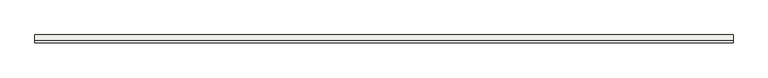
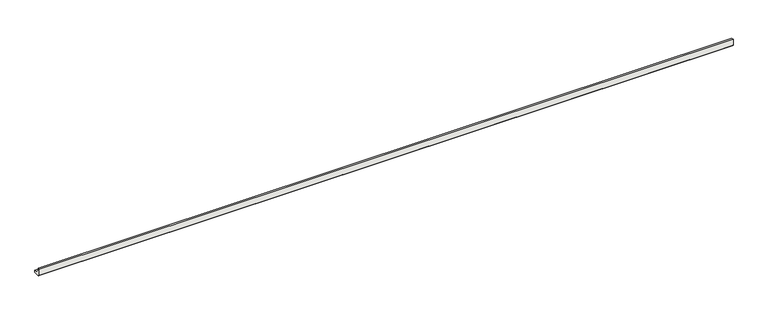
"""IFC4 building model written with IfcOpenShell, lengths in millimetres: slab geometry, ROSA GRES_188 : Pieza 188_Tresor_Java_Anti-Slip."""

from ifc_helpers import new_model, si_unit, point, frame, frame_2d, origin, place, context, project, spatial, polyline, circle_curve, trimmed, segment, composite_curve, outline, extrude, source, transform, mapped, element, save


def slab_aa2dd5a7(model_context):
    return source(origin(), model_context, "Body", "SweptSolid", [
        extrude(outline(composite_curve([segment(polyline([(0.0, 8.7114978), (0.0, 40.0), (9.9734114, 40.0)]), True, "CONTINUOUS"), segment(trimmed(circle_curve(frame_2d((39.9955547, 39.9955547)), 30.0221435), [point((9.9734114, 40.0))], [point((40.0, 9.9734114))], True, "CARTESIAN"), True, "CONTINUOUS"), segment(polyline([(40.0, 9.9734114), (40.0, 0.0), (8.7114978, 0.0), (0.0, 8.7114978)]), True, "CONTINUOUS")], self_intersect=False)), frame((0.0, 0.0, 0.0), z_axis=(1.0, 0.0, 0.0), x_axis=(0.0, 1.0, 0.0)), (0.0, 0.0, 1.0), 3494.9734114),
    ])


if __name__ == "__main__":
    model = new_model("IFC4")
    model_context = context("Model", 3, world=origin())
    ifc_project = project(units=[si_unit("LENGTHUNIT", "METRE", prefix="MILLI")], contexts=[model_context])
    site = spatial("IfcSite", under=ifc_project)
    building = spatial("IfcBuilding", under=site)
    placement = place(None, origin())
    slab_shape = slab_aa2dd5a7(model_context)
    element("IfcSlab", 1, ObjectType="ROSA GRES_188 : Pieza 188_Tresor_Java_Anti-Slip", at=placement, inside=building, context=model_context, shape_type="MappedRepresentation", body=[
        mapped(slab_shape, transform((0.0, 0.0, 0.0), x_axis=(1.0, 0.0, 0.0), y_axis=(0.0, 1.0, 0.0), z_axis=(0.0, 0.0, 1.0))),
    ])
    save(model, "model.ifc")
